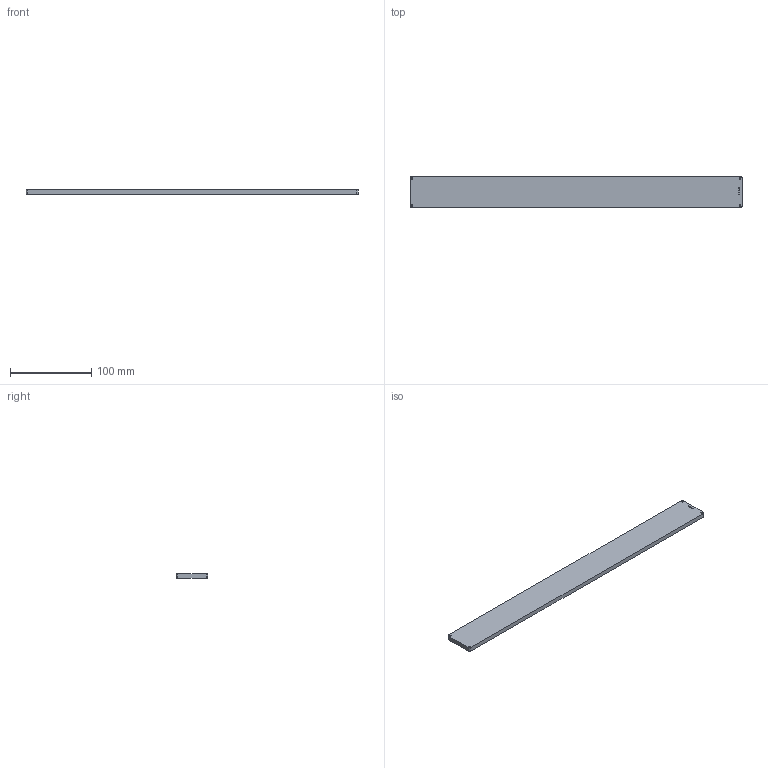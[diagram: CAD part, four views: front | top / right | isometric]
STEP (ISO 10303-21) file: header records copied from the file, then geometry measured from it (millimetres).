
FILE_DESCRIPTION(('KiCad electronic assembly'),'2;1');
FILE_NAME('fdc-capacitive-35cm.step','2025-07-15T12:35:30',('Pcbnew'),( 'Kicad'),'Open CASCADE STEP processor 7.8','KiCad to STEP converter' ,'Unknown');
FILE_SCHEMA(('AUTOMOTIVE_DESIGN { 1 0 10303 214 1 1 1 1 }'));
Length unit declared in the file: millimetre
Products named in the file (2): fdc-capacitive-35cm 1; fdc-capacitive-3-35cm_PCB
Assembly tree (1 placements, depth 2):
  fdc-capacitive-35cm 1
    fdc-capacitive-3-35cm_PCB
Bounding box: 409 x 38.5 x 5.53 mm (x, y, z)
Volume: 86972.3 mm3; surface area: 36593.6 mm2
Topology: 1 solids, 1 shells, 18 faces, 48 edges, 32 vertices
Faces by surface type: cylinder 12, plane 6
Full cylindrical faces by diameter (mm): 1 x4, 2 x4
Entity records: 645 total; most frequent: DIRECTION 112, CARTESIAN_POINT 100, ORIENTED_EDGE 96, EDGE_CURVE 48, AXIS2_PLACEMENT_3D 44, FACE_BOUND 34, EDGE_LOOP 34, VERTEX_POINT 32
